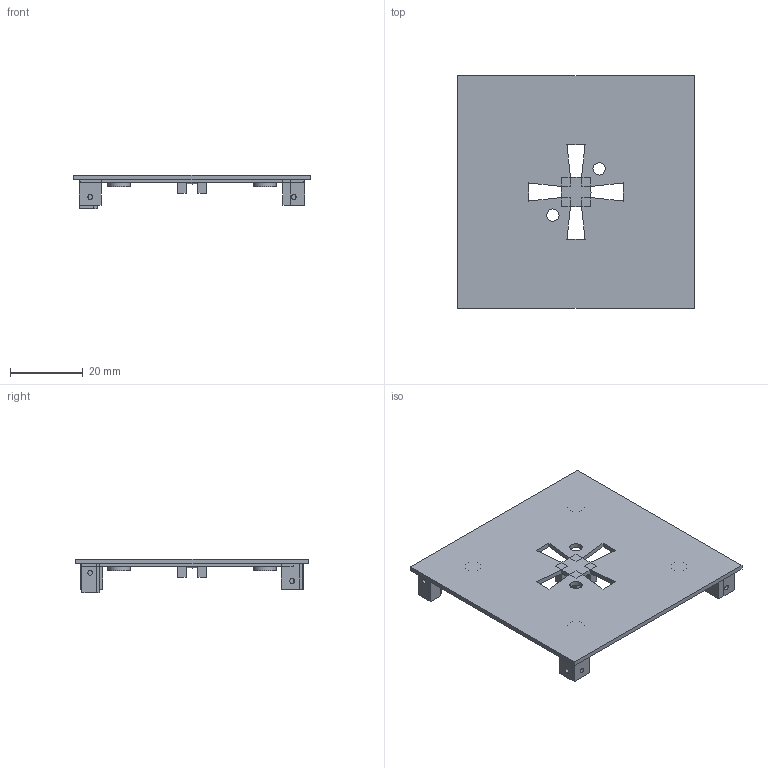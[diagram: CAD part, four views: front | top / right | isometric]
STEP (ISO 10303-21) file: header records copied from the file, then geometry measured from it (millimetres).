
FILE_DESCRIPTION(('FreeCAD Model'),'2;1');
FILE_NAME('/Users/alberto/Desktop/Dtto v2.0.1 STEP/006-1.step', '2017-05-29T11:44:09',('Author'),(''), 'Open CASCADE STEP processor 6.8','FreeCAD','Unknown');
FILE_SCHEMA(('AUTOMOTIVE_DESIGN_CC2 { 1 2 10303 214 -1 1 5 4 }'));
Length unit declared in the file: millimetre
Products named in the file (15): ASSEMBLY; Clone_of_Clone_of_Cut009; Clone_of_Clone_of_Clone_of_Cut006; Clone_of_Clone_of_Clone_of_Cut007; Clone_of_Clone_of_Clone_of_Cut008; OriginalEsferaF; Cut179; Cut255; Cut254; Cut253; Cut252; Cubo516; Cubo515; Cubo514; Cubo513
Assembly tree (14 placements, depth 2):
  ASSEMBLY
    Clone_of_Clone_of_Cut009
    Clone_of_Clone_of_Clone_of_Cut006
    Clone_of_Clone_of_Clone_of_Cut007
    Clone_of_Clone_of_Clone_of_Cut008
    OriginalEsferaF
    Cut179
    Cut255
    Cut254
    Cut253
    Cut252
    Cubo516
    Cubo515
    Cubo514
    Cubo513
Bounding box: 65 x 64 x 9.25 mm (x, y, z)
Volume: 6227.8 mm3; surface area: 10964.6 mm2
Topology: 14 solids, 14 shells, 158 faces, 357 edges, 232 vertices
Faces by surface type: plane 135, cylinder 22, sphere 1
Full cylindrical faces by diameter (mm): 1.3 x8, 3.4 x2, 4.6 x8, 6.2 x4
Entity records: 9591 total; most frequent: CARTESIAN_POINT 1841, DIRECTION 1303, LINE 765, VECTOR 765, ORIENTED_EDGE 712, PCURVE 712, DEFINITIONAL_REPRESENTATION 712, EDGE_CURVE 356
